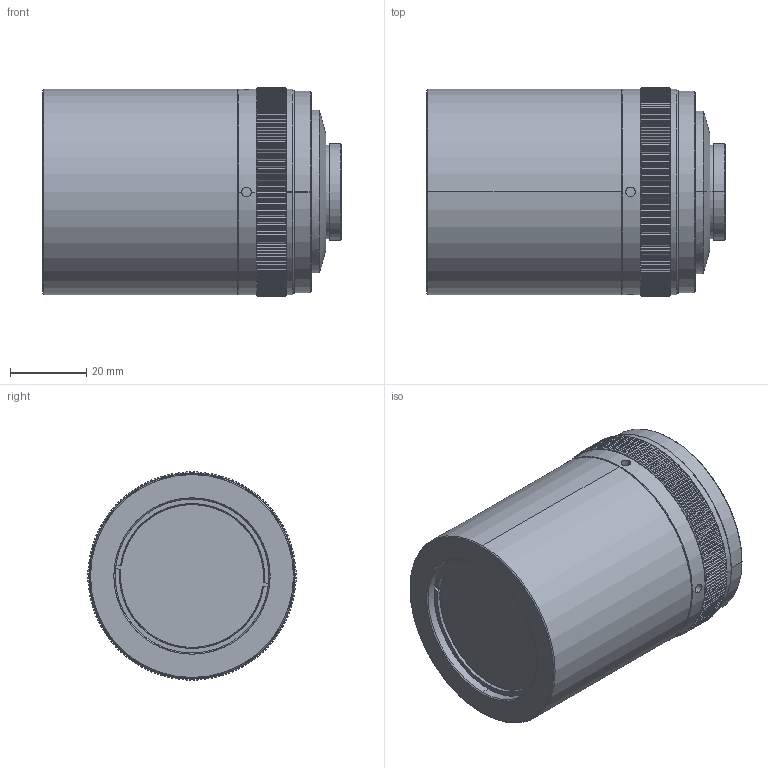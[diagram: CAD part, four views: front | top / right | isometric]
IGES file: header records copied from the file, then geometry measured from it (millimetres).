
Start section: SolidWorks IGES file using analytic representation for surfaces
Global section: file name: E:\liang\光学镜头\LASER\LASER-75V1\V3.0\发客户3D\改直径\LASER-75V2.IGS; native system: SolidWorks 2017; preprocessor: SolidWorks 2017; author: wenru; date: 221121.133727; units: millimetre
Bounding box: 78.48 x 54.8 x 54.8 mm (x, y, z)
Surface area: 19019.8 mm2 (no closed solid volume)
Topology: 0 solids, 0 shells, 980 faces, 5819 edges, 5819 vertices
Faces by surface type: revolution 594, bspline 386
